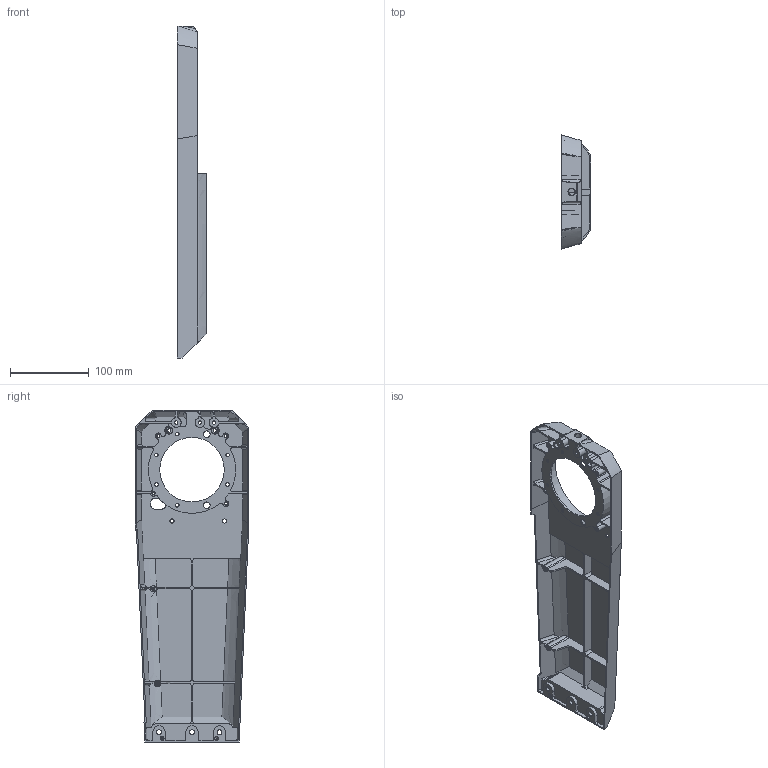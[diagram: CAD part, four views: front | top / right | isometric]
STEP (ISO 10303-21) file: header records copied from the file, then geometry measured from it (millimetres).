
FILE_DESCRIPTION((''),'2;1');
FILE_NAME('ST-Z_2_1_1','2025-07-12T11:04:30',('Administrator'),(''),'CREO PARAMETRIC BY PTC INC, 2022073','CREO PARAMETRIC BY PTC INC, 2022073','');
FILE_SCHEMA(('CONFIG_CONTROL_DESIGN'));
Length unit declared in the file: millimetre
Products named in the file (1): ST-Z_2_1_1
Bounding box: 37 x 145 x 422.5 mm (x, y, z)
Volume: 169145.2 mm3; surface area: 187564.2 mm2
Topology: 1 solids, 1 shells, 448 faces, 1278 edges, 835 vertices
Faces by surface type: cylinder 207, plane 141, cone 70, bspline 15, extrusion 15
Entity records: 16535 total; most frequent: CARTESIAN_POINT 4676, ORIENTED_EDGE 2548, DIRECTION 2424, EDGE_CURVE 1274, AXIS2_PLACEMENT_3D 881, VERTEX_POINT 835, VECTOR 662, LINE 647
